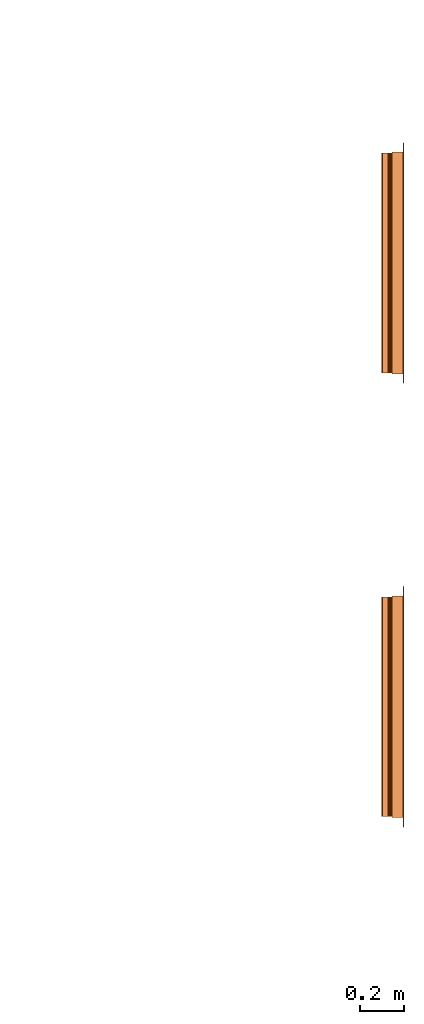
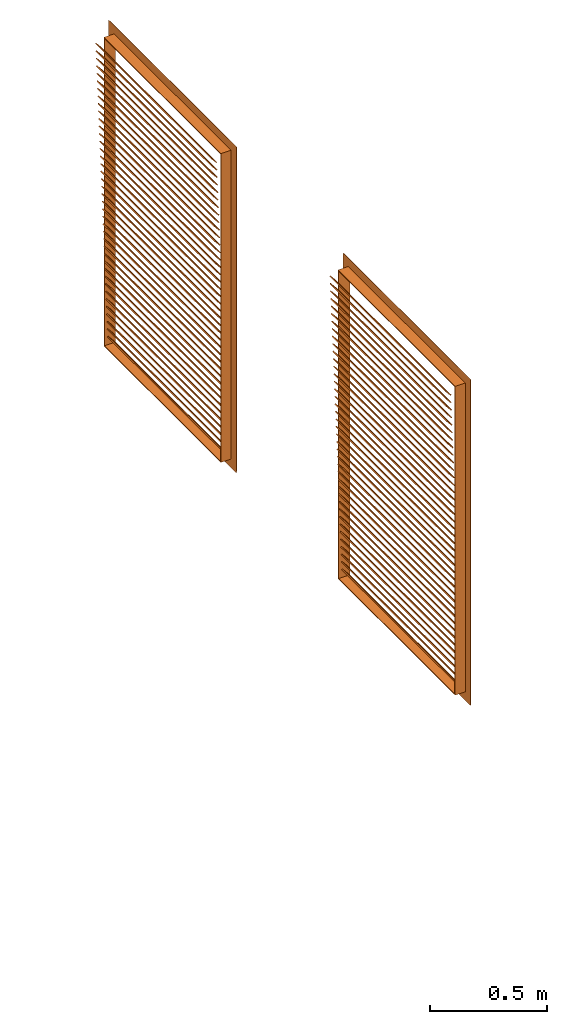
# One storey, part 1 of 5: 2 proxies.
"""IFC2X3 building model written with IfcOpenShell, lengths in centimetres."""

import ifcopenshell
import ifcopenshell.guid

model = None  # the IFC model being written
_history = None  # IfcOwnerHistory: only IFC2X3 demands one
_inside = {}  # id of a spatial element -> (the spatial element, [elements in it])
_under = {}  # id of a project, library or spatial element -> (it, [spatial elements below it])
_declared = {}  # id of a project -> (the project, [libraries it declares])
_typed = {}  # id of a type object -> (the type object, [elements of that type])
_made_of = {}  # id of a material, layer set ... -> (it, [elements and type objects made of it])


def new_model(schema):
    """Start an empty IFC model of exactly this schema.

    Asked for "IFC4X3", IfcOpenShell would pick the latest addendum, in which some entities
    have other attributes; the version numbers below select the first issue.
    IFC2X3 requires an IfcOwnerHistory on every rooted entity: one is made here for all.
    """
    global model, _history
    if schema == "IFC4X3":
        model = ifcopenshell.file(schema_version=(4, 3, 0, 0))
    else:
        model = ifcopenshell.file(schema=schema)
    _inside.clear()
    _under.clear()
    _declared.clear()
    _typed.clear()
    _made_of.clear()
    _history = None
    if model.schema == "IFC2X3":
        org = make("IfcOrganization", Name="unknown")
        user = make(
            "IfcPersonAndOrganization",
            ThePerson=make("IfcPerson", FamilyName="unknown"),
            TheOrganization=org,
        )
        app = make(
            "IfcApplication",
            ApplicationDeveloper=org,
            Version="unknown",
            ApplicationFullName="unknown",
            ApplicationIdentifier="unknown",
        )
        _history = make(
            "IfcOwnerHistory",
            OwningUser=user,
            OwningApplication=app,
            ChangeAction="ADDED",
            CreationDate=0,
        )
    return model


def make(cls, **values):
    """One entity of the class cls with the attributes given. An attribute that is None is left unset."""
    return model.create_entity(
        cls, **{name: value for name, value in values.items() if value is not None}
    )


def entity(cls, *values):
    """Any entity or typed value of the class cls, its attributes in the order of the schema. None: left unset."""
    e = model.create_entity(cls)
    for i, value in enumerate(values):
        if value is not None:
            e[i] = value
    return e


def rooted(cls, **values):
    """An entity with a GlobalId (a new one), such as an element, a storey or a relation."""
    return make(cls, GlobalId=ifcopenshell.guid.new(), OwnerHistory=_history, **values)


def si_unit(unit_type, name, prefix=None):
    """IfcSIUnit, for example si_unit("LENGTHUNIT", "METRE", prefix="MILLI")."""
    return make("IfcSIUnit", UnitType=unit_type, Prefix=prefix, Name=name)


def converted_unit(unit_type, name, factor, base, dimensions=None, offset=None):
    """IfcConversionBasedUnit, such as the inch: factor (a typed value) times the base unit."""
    return make(
        "IfcConversionBasedUnit"
        if offset is None
        else "IfcConversionBasedUnitWithOffset",
        ConversionOffset=offset,
        Dimensions=None
        if dimensions is None
        else entity("IfcDimensionalExponents", *dimensions),
        UnitType=unit_type,
        Name=name,
        ConversionFactor=make(
            "IfcMeasureWithUnit", ValueComponent=factor, UnitComponent=base
        ),
    )


def derived_unit(unit_type, elements):
    """IfcDerivedUnit: a product of units, each with its exponent."""
    return make(
        "IfcDerivedUnit",
        Elements=[
            make("IfcDerivedUnitElement", Unit=unit, Exponent=power)
            for unit, power in elements
        ],
        UnitType=unit_type,
    )


def assignment(units):
    """IfcUnitAssignment: the units of a project."""
    return None if units is None else make("IfcUnitAssignment", Units=units)


def point(xyz):
    """IfcCartesianPoint."""
    return None if xyz is None else make("IfcCartesianPoint", Coordinates=xyz)


def direction(xyz):
    """IfcDirection."""
    return None if xyz is None else make("IfcDirection", DirectionRatios=xyz)


def frame(location, z_axis=None, x_axis=None):
    """IfcAxis2Placement3D, a coordinate frame: its origin and axes. An axis left out is left unset."""
    return make(
        "IfcAxis2Placement3D",
        Location=point(location),
        Axis=direction(z_axis),
        RefDirection=direction(x_axis),
    )


def origin():
    """The frame at (0, 0, 0) with its axes left unset."""
    return frame((0.0, 0.0, 0.0))


def place(relative_to, where):
    """IfcLocalPlacement: puts the frame where relative to a parent placement (None: the world)."""
    return make(
        "IfcLocalPlacement", PlacementRelTo=relative_to, RelativePlacement=where
    )


def context(
    kind, dimensions, precision=None, world=None, true_north=None, identifier=None
):
    """IfcGeometricRepresentationContext, for example the 3D "Model" context."""
    return make(
        "IfcGeometricRepresentationContext",
        ContextIdentifier=identifier,
        ContextType=kind,
        CoordinateSpaceDimension=dimensions,
        Precision=precision,
        WorldCoordinateSystem=world,
        TrueNorth=true_north,
    )


def subcontext(parent, identifier, kind, view, scale=None):
    """IfcGeometricRepresentationSubContext, for example "Body" below "Model"."""
    return make(
        "IfcGeometricRepresentationSubContext",
        ContextIdentifier=identifier,
        ContextType=kind,
        ParentContext=parent,
        TargetScale=scale,
        TargetView=view,
    )


def project(units=None, contexts=None):
    """IfcProject with its units and contexts."""
    return rooted(
        "IfcProject",
        Name="project",
        RepresentationContexts=contexts,
        UnitsInContext=assignment(units),
    )


def spatial(cls, under=None, at=None, **own):
    """A site, building, storey or space (cls), placed at a placement, below another one or the project."""
    s = rooted(cls, ObjectPlacement=at, **own)
    if under is not None:
        _under.setdefault(under.id(), (under, []))[1].append(s)
    return s


def faces_of(points, faces, orient=None, outer=None):
    """IfcFace entities. A face is a list of loops; a loop is a list of indices into points, from 0.

    orient and outer hold one flag for each loop. By default every Orientation is true, the
    first loop of a face is its IfcFaceOuterBound and the others are IfcFaceBound.
    """
    made = []
    for i, loops in enumerate(faces):
        bounds = []
        for j, loop in enumerate(loops):
            is_outer = j == 0 if outer is None else outer[i][j]
            bounds.append(
                make(
                    "IfcFaceOuterBound" if is_outer else "IfcFaceBound",
                    Bound=make("IfcPolyLoop", Polygon=[points[k] for k in loop]),
                    Orientation=True if orient is None else orient[i][j],
                )
            )
        made.append(make("IfcFace", Bounds=bounds))
    return made


def faceted_brep(points, faces, orient=None, outer=None, voids=None):
    """IfcFacetedBrep: a solid bounded by flat faces; with voids (closed shells), ...WithVoids."""
    shared = [point(p) for p in points]
    hull = make("IfcClosedShell", CfsFaces=faces_of(shared, faces, orient, outer))
    if voids is None:
        return make("IfcFacetedBrep", Outer=hull)
    return make(
        "IfcFacetedBrepWithVoids",
        Outer=hull,
        Voids=[
            make(cls, CfsFaces=faces_of(shared, fs, o, b)) for cls, fs, o, b in voids
        ],
    )


def shape(context_of_items, identifier, shape_type, items):
    """IfcShapeRepresentation: the items that make up one representation, for example the "Body"."""
    return make(
        "IfcShapeRepresentation",
        ContextOfItems=context_of_items,
        RepresentationIdentifier=identifier,
        RepresentationType=shape_type,
        Items=items,
    )


def source(mapping_origin, context_of_items, identifier, shape_type, items):
    """IfcRepresentationMap: a shape defined once, which mapped items show again and again."""
    return make(
        "IfcRepresentationMap",
        MappingOrigin=mapping_origin,
        MappedRepresentation=shape(context_of_items, identifier, shape_type, items),
    )


def transform(
    local_origin,
    x_axis=None,
    y_axis=None,
    z_axis=None,
    scale=None,
    scale2=None,
    scale3=None,
    uniform=True,
):
    """IfcCartesianTransformationOperator3D, or its non-uniform kind. x_axis, y_axis, z_axis: its Axis1, 2, 3."""
    if uniform:
        return make(
            "IfcCartesianTransformationOperator3D",
            Axis1=direction(x_axis),
            Axis2=direction(y_axis),
            LocalOrigin=point(local_origin),
            Scale=scale,
            Axis3=direction(z_axis),
        )
    return make(
        "IfcCartesianTransformationOperator3DnonUniform",
        Axis1=direction(x_axis),
        Axis2=direction(y_axis),
        LocalOrigin=point(local_origin),
        Scale=scale,
        Axis3=direction(z_axis),
        Scale2=scale2,
        Scale3=scale3,
    )


def mapped(mapping_source, mapping_target):
    """IfcMappedItem: shows the shape of a source again, moved by a transform."""
    return make(
        "IfcMappedItem", MappingSource=mapping_source, MappingTarget=mapping_target
    )


def material(Name=None, Category=None):
    """IfcMaterial."""
    return make("IfcMaterial", Name=Name, Category=Category)


def made_of(thing, what):
    """Note that an element or type object is made of a material, layer set ...; save() writes the relation."""
    if what is not None:
        _made_of.setdefault(what.id(), (what, []))[1].append(thing)
    return thing


def type_object(cls, material=None, **own):
    """A type object (cls), such as IfcWallType, which elements share."""
    return made_of(rooted(cls, **own), material)


def type_shapes(of_type, sources):
    """Give a type object the sources (RepresentationMaps) that its elements show as mapped items."""
    of_type.RepresentationMaps = sources


def element(
    cls,
    number,
    at=None,
    inside=None,
    cuts=None,
    type_object=None,
    material=None,
    context=None,
    identifier="Body",
    shape_type=None,
    held_by="IfcProductDefinitionShape",
    body=None,
    shapes=None,
    **own,
):
    """One element of the class cls, such as IfcWall. Its Tag is "e" and its number.

    at: its placement. inside: the storey or other place that contains it. cuts: it is an
    opening in that element (IfcRelVoidsElement). A single representation is given by context,
    identifier, shape_type and body (its items); several are given by shapes. held_by: the class
    of the entity that holds the representations. save() writes the other relations.
    """
    e = rooted(cls, Tag="e%d" % number, ObjectPlacement=at, **own)
    if body is not None:
        shapes = [shape(context, identifier, shape_type, body)]
    if shapes is not None:
        e.Representation = make(held_by, Representations=shapes)
    if inside is not None:
        _inside.setdefault(inside.id(), (inside, []))[1].append(e)
    if cuts is not None:
        rooted(
            "IfcRelVoidsElement", RelatingBuildingElement=cuts, RelatedOpeningElement=e
        )
    if type_object is not None:
        _typed.setdefault(type_object.id(), (type_object, []))[1].append(e)
    return made_of(e, material)


def aggregate(whole, parts):
    """IfcRelAggregates: a whole, such as a stair, and the parts it consists of."""
    return rooted("IfcRelAggregates", RelatingObject=whole, RelatedObjects=parts)


def save(model, path):
    """Write the relations noted so far, then the file.

    IfcRelAggregates (storeys below a building ...), IfcRelContainedInSpatialStructure (elements
    in a storey), IfcRelDefinesByType, IfcRelAssociatesMaterial and IfcRelDeclares: one each for
    every whole, place, type object, material and project.
    """
    for whole, parts in _under.values():
        aggregate(whole, parts)
    for where, things in _inside.values():
        rooted(
            "IfcRelContainedInSpatialStructure",
            RelatedElements=things,
            RelatingStructure=where,
        )
    for kind, things in _typed.values():
        rooted("IfcRelDefinesByType", RelatedObjects=things, RelatingType=kind)
    for what, things in _made_of.values():
        rooted("IfcRelAssociatesMaterial", RelatedObjects=things, RelatingMaterial=what)
    for by, libraries in _declared.values():
        rooted("IfcRelDeclares", RelatingContext=by, RelatedDefinitions=libraries)
    model.write(path)


model = new_model("IFC2X3")

# Units and contexts
model_context = context("Model", 3, precision=0.001, world=origin(), true_north=direction((6.12303176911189e-17, 1.0)))
body_context = subcontext(model_context, "Body", "Model", "MODEL_VIEW")
ifc_project = project(units=[si_unit("LENGTHUNIT", "METRE", prefix="CENTI"), si_unit("AREAUNIT", "SQUARE_METRE"), si_unit("VOLUMEUNIT", "CUBIC_METRE"), converted_unit("PLANEANGLEUNIT", "DEGREE", entity("IfcRatioMeasure", 0.0174532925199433), si_unit("PLANEANGLEUNIT", "RADIAN"), dimensions=[0, 0, 0, 0, 0, 0, 0]), si_unit("MASSUNIT", "GRAM", prefix="KILO"), si_unit("TIMEUNIT", "SECOND"), si_unit("FREQUENCYUNIT", "HERTZ"), si_unit("THERMODYNAMICTEMPERATUREUNIT", "DEGREE_CELSIUS"), derived_unit("THERMALTRANSMITTANCEUNIT", [(si_unit("MASSUNIT", "GRAM", prefix="KILO"), 1), (si_unit("THERMODYNAMICTEMPERATUREUNIT", "KELVIN"), -1), (si_unit("TIMEUNIT", "SECOND"), -3)]), derived_unit("VOLUMETRICFLOWRATEUNIT", [(si_unit("LENGTHUNIT", "METRE"), 3), (si_unit("TIMEUNIT", "SECOND"), -1)]), si_unit("ELECTRICCURRENTUNIT", "AMPERE"), si_unit("ELECTRICVOLTAGEUNIT", "VOLT"), si_unit("POWERUNIT", "WATT"), si_unit("FORCEUNIT", "NEWTON", prefix="KILO"), si_unit("ILLUMINANCEUNIT", "LUX"), si_unit("LUMINOUSFLUXUNIT", "LUMEN"), si_unit("LUMINOUSINTENSITYUNIT", "CANDELA"), derived_unit("USERDEFINED", [(si_unit("MASSUNIT", "GRAM", prefix="KILO"), -1), (si_unit("LENGTHUNIT", "METRE"), -2), (si_unit("TIMEUNIT", "SECOND"), 3), (si_unit("LUMINOUSFLUXUNIT", "LUMEN"), 1)]), derived_unit("LINEARVELOCITYUNIT", [(si_unit("LENGTHUNIT", "METRE"), 1), (si_unit("TIMEUNIT", "SECOND"), -1)]), si_unit("PRESSUREUNIT", "PASCAL"), derived_unit("USERDEFINED", [(si_unit("LENGTHUNIT", "METRE"), -2), (si_unit("MASSUNIT", "GRAM", prefix="KILO"), 1), (si_unit("TIMEUNIT", "SECOND"), -2)])], contexts=[model_context])

# Site, building, storey
site_placement = place(None, frame((8.62739174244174, -249.285249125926, 0.0)))
site = spatial("IfcSite", under=ifc_project, at=site_placement, Name="Default", CompositionType="ELEMENT")
building_placement = place(site_placement, origin())
building = spatial("IfcBuilding", under=site, at=building_placement, CompositionType="ELEMENT")
storey_placement = place(building_placement, frame((0.0, 0.0, 410.0)))
storey = spatial("IfcBuildingStorey", under=building, at=storey_placement, Name="Acrotère E1", CompositionType="ELEMENT", Elevation=410.000000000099)

# Proxies
ifc_material = material(Name="Acier - Galvanisé")
building_element_proxy_type = type_object("IfcBuildingElementProxyType", Name="1700 x 800 mm", PredefinedType="NOTDEFINED", material=ifc_material)
shared_shape = source(origin(), body_context, "Body", "Brep", [
    faceted_brep([(104.011775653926, 5.84615384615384, 13.0503124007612), (104.011775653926, 8.4173042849, 9.98613462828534), (104.011775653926, 8.80032650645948, 10.3075284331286), (104.011775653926, 6.22917606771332, 13.3717062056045), (5.01177565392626, 5.84615384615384, 13.0503124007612), (5.01177565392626, 6.22917606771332, 13.3717062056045), (5.01177565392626, 8.80032650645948, 10.3075284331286), (5.01177565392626, 8.4173042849, 9.98613462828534)], [[[0, 1, 2, 3]], [[4, 5, 6, 7]], [[1, 0, 4, 7]], [[2, 1, 7, 6]], [[3, 2, 6, 5]], [[0, 3, 5, 4]]]),
    faceted_brep([(104.011775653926, 5.69230769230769, 17.0246713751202), (104.011775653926, 8.26345813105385, 13.9604936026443), (104.011775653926, 8.64648035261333, 14.2818874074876), (104.011775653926, 6.07532991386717, 17.3460651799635), (5.01177565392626, 5.69230769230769, 17.0246713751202), (5.01177565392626, 6.07532991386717, 17.3460651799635), (5.01177565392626, 8.64648035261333, 14.2818874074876), (5.01177565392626, 8.26345813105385, 13.9604936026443)], [[[0, 1, 2, 3]], [[4, 5, 6, 7]], [[1, 0, 4, 7]], [[2, 1, 7, 6]], [[3, 2, 6, 5]], [[0, 3, 5, 4]]]),
    faceted_brep([(104.011775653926, 5.53846153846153, 20.9990303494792), (104.011775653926, 8.10961197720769, 17.9348525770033), (104.011775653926, 8.49263419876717, 18.2562463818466), (104.011775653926, 5.92148376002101, 21.3204241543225), (5.01177565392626, 5.53846153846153, 20.9990303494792), (5.01177565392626, 5.92148376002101, 21.3204241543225), (5.01177565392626, 8.49263419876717, 18.2562463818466), (5.01177565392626, 8.10961197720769, 17.9348525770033)], [[[0, 1, 2, 3]], [[4, 5, 6, 7]], [[1, 0, 4, 7]], [[2, 1, 7, 6]], [[3, 2, 6, 5]], [[0, 3, 5, 4]]]),
    faceted_brep([(104.011775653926, 5.38461538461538, 24.9733893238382), (104.011775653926, 7.95576582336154, 21.9092115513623), (104.011775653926, 8.33878804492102, 22.2306053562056), (104.011775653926, 5.76763760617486, 25.2947831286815), (5.01177565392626, 5.38461538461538, 24.9733893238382), (5.01177565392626, 5.76763760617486, 25.2947831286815), (5.01177565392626, 8.33878804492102, 22.2306053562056), (5.01177565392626, 7.95576582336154, 21.9092115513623)], [[[0, 1, 2, 3]], [[4, 5, 6, 7]], [[1, 0, 4, 7]], [[2, 1, 7, 6]], [[3, 2, 6, 5]], [[0, 3, 5, 4]]]),
    faceted_brep([(104.011775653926, 5.23076923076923, 28.9477482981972), (104.011775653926, 7.80191966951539, 25.8835705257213), (104.011775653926, 8.18494189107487, 26.2049643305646), (104.011775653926, 5.61379145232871, 29.2691421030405), (5.01177565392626, 5.23076923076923, 28.9477482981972), (5.01177565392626, 5.61379145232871, 29.2691421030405), (5.01177565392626, 8.18494189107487, 26.2049643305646), (5.01177565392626, 7.80191966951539, 25.8835705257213)], [[[0, 1, 2, 3]], [[4, 5, 6, 7]], [[1, 0, 4, 7]], [[2, 1, 7, 6]], [[3, 2, 6, 5]], [[0, 3, 5, 4]]]),
    faceted_brep([(104.011775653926, 5.07692307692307, 32.9221072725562), (104.011775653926, 7.64807351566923, 29.8579295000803), (104.011775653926, 8.03109573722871, 30.1793233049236), (104.011775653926, 5.45994529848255, 33.2435010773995), (5.01177565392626, 5.07692307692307, 32.9221072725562), (5.01177565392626, 5.45994529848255, 33.2435010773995), (5.01177565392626, 8.03109573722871, 30.1793233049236), (5.01177565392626, 7.64807351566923, 29.8579295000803)], [[[0, 1, 2, 3]], [[4, 5, 6, 7]], [[1, 0, 4, 7]], [[2, 1, 7, 6]], [[3, 2, 6, 5]], [[0, 3, 5, 4]]]),
    faceted_brep([(104.011775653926, 4.92307692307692, 36.8964662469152), (104.011775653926, 7.49422736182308, 33.8322884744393), (104.011775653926, 7.87724958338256, 34.1536822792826), (104.011775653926, 5.3060991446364, 37.2178600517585), (5.01177565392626, 4.92307692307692, 36.8964662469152), (5.01177565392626, 5.3060991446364, 37.2178600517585), (5.01177565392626, 7.87724958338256, 34.1536822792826), (5.01177565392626, 7.49422736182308, 33.8322884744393)], [[[0, 1, 2, 3]], [[4, 5, 6, 7]], [[1, 0, 4, 7]], [[2, 1, 7, 6]], [[3, 2, 6, 5]], [[0, 3, 5, 4]]]),
    faceted_brep([(104.011775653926, 4.76923076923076, 40.8708252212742), (104.011775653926, 7.34038120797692, 37.8066474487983), (104.011775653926, 7.7234034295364, 38.1280412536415), (104.011775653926, 5.15225299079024, 41.1922190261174), (5.01177565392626, 4.76923076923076, 40.8708252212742), (5.01177565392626, 5.15225299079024, 41.1922190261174), (5.01177565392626, 7.7234034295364, 38.1280412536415), (5.01177565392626, 7.34038120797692, 37.8066474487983)], [[[0, 1, 2, 3]], [[4, 5, 6, 7]], [[1, 0, 4, 7]], [[2, 1, 7, 6]], [[3, 2, 6, 5]], [[0, 3, 5, 4]]]),
    faceted_brep([(104.011775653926, 4.61538461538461, 44.8451841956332), (104.011775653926, 7.18653505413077, 41.7810064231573), (104.011775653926, 7.56955727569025, 42.1024002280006), (104.011775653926, 4.99840683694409, 45.1665780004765), (5.01177565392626, 4.61538461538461, 44.8451841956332), (5.01177565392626, 4.99840683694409, 45.1665780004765), (5.01177565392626, 7.56955727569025, 42.1024002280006), (5.01177565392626, 7.18653505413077, 41.7810064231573)], [[[0, 1, 2, 3]], [[4, 5, 6, 7]], [[1, 0, 4, 7]], [[2, 1, 7, 6]], [[3, 2, 6, 5]], [[0, 3, 5, 4]]]),
    faceted_brep([(104.011775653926, 4.46153846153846, 48.8195431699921), (104.011775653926, 7.03268890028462, 45.7553653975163), (104.011775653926, 7.4157111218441, 46.0767592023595), (104.011775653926, 4.84456068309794, 49.1409369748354), (5.01177565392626, 4.46153846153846, 48.8195431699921), (5.01177565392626, 4.84456068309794, 49.1409369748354), (5.01177565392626, 7.4157111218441, 46.0767592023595), (5.01177565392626, 7.03268890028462, 45.7553653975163)], [[[0, 1, 2, 3]], [[4, 5, 6, 7]], [[1, 0, 4, 7]], [[2, 1, 7, 6]], [[3, 2, 6, 5]], [[0, 3, 5, 4]]]),
    faceted_brep([(104.011775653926, 4.3076923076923, 52.7939021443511), (104.011775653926, 6.87884274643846, 49.7297243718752), (104.011775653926, 7.26186496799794, 50.0511181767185), (104.011775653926, 4.69071452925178, 53.1152959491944), (5.01177565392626, 4.3076923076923, 52.7939021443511), (5.01177565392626, 4.69071452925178, 53.1152959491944), (5.01177565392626, 7.26186496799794, 50.0511181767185), (5.01177565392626, 6.87884274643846, 49.7297243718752)], [[[0, 1, 2, 3]], [[4, 5, 6, 7]], [[1, 0, 4, 7]], [[2, 1, 7, 6]], [[3, 2, 6, 5]], [[0, 3, 5, 4]]]),
    faceted_brep([(104.011775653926, 4.15384615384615, 56.7682611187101), (104.011775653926, 6.72499659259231, 53.7040833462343), (104.011775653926, 7.10801881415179, 54.0254771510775), (104.011775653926, 4.53686837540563, 57.0896549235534), (5.01177565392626, 4.15384615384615, 56.7682611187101), (5.01177565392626, 4.53686837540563, 57.0896549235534), (5.01177565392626, 7.10801881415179, 54.0254771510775), (5.01177565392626, 6.72499659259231, 53.7040833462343)], [[[0, 1, 2, 3]], [[4, 5, 6, 7]], [[1, 0, 4, 7]], [[2, 1, 7, 6]], [[3, 2, 6, 5]], [[0, 3, 5, 4]]]),
    faceted_brep([(104.011775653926, 4.0, 60.7426200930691), (104.011775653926, 6.57115043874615, 57.6784423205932), (104.011775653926, 6.95417266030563, 57.9998361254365), (104.011775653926, 4.38302222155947, 61.0640138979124), (5.01177565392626, 4.0, 60.7426200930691), (5.01177565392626, 4.38302222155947, 61.0640138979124), (5.01177565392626, 6.95417266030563, 57.9998361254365), (5.01177565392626, 6.57115043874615, 57.6784423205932)], [[[0, 1, 2, 3]], [[4, 5, 6, 7]], [[1, 0, 4, 7]], [[2, 1, 7, 6]], [[3, 2, 6, 5]], [[0, 3, 5, 4]]]),
    faceted_brep([(104.011775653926, 3.84615384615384, 64.716979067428), (104.011775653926, 6.4173042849, 61.6528012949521), (104.011775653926, 6.80032650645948, 61.9741950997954), (104.011775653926, 4.22917606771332, 65.0383728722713), (5.01177565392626, 3.84615384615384, 64.716979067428), (5.01177565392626, 4.22917606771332, 65.0383728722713), (5.01177565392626, 6.80032650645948, 61.9741950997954), (5.01177565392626, 6.4173042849, 61.6528012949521)], [[[0, 1, 2, 3]], [[4, 5, 6, 7]], [[1, 0, 4, 7]], [[2, 1, 7, 6]], [[3, 2, 6, 5]], [[0, 3, 5, 4]]]),
    faceted_brep([(104.011775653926, 3.69230769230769, 68.6913380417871), (104.011775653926, 6.26345813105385, 65.6271602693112), (104.011775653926, 6.64648035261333, 65.9485540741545), (104.011775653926, 4.07532991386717, 69.0127318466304), (5.01177565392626, 3.69230769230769, 68.6913380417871), (5.01177565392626, 4.07532991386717, 69.0127318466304), (5.01177565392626, 6.64648035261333, 65.9485540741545), (5.01177565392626, 6.26345813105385, 65.6271602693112)], [[[0, 1, 2, 3]], [[4, 5, 6, 7]], [[1, 0, 4, 7]], [[2, 1, 7, 6]], [[3, 2, 6, 5]], [[0, 3, 5, 4]]]),
    faceted_brep([(104.011775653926, 3.53846153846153, 72.665697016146), (104.011775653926, 6.10961197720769, 69.6015192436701), (104.011775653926, 6.49263419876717, 69.9229130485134), (104.011775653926, 3.92148376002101, 72.9870908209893), (5.01177565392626, 3.53846153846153, 72.665697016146), (5.01177565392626, 3.92148376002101, 72.9870908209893), (5.01177565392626, 6.49263419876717, 69.9229130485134), (5.01177565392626, 6.10961197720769, 69.6015192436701)], [[[0, 1, 2, 3]], [[4, 5, 6, 7]], [[1, 0, 4, 7]], [[2, 1, 7, 6]], [[3, 2, 6, 5]], [[0, 3, 5, 4]]]),
    faceted_brep([(104.011775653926, 3.38461538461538, 76.6400559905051), (104.011775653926, 5.95576582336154, 73.5758782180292), (104.011775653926, 6.33878804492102, 73.8972720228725), (104.011775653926, 3.76763760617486, 76.9614497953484), (5.01177565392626, 3.38461538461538, 76.6400559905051), (5.01177565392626, 3.76763760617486, 76.9614497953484), (5.01177565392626, 6.33878804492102, 73.8972720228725), (5.01177565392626, 5.95576582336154, 73.5758782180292)], [[[0, 1, 2, 3]], [[4, 5, 6, 7]], [[1, 0, 4, 7]], [[2, 1, 7, 6]], [[3, 2, 6, 5]], [[0, 3, 5, 4]]]),
    faceted_brep([(104.011775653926, 3.23076923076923, 80.614414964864), (104.011775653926, 5.80191966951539, 77.5502371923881), (104.011775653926, 6.18494189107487, 77.8716309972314), (104.011775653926, 3.61379145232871, 80.9358087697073), (5.01177565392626, 3.23076923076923, 80.614414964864), (5.01177565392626, 3.61379145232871, 80.9358087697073), (5.01177565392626, 6.18494189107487, 77.8716309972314), (5.01177565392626, 5.80191966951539, 77.5502371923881)], [[[0, 1, 2, 3]], [[4, 5, 6, 7]], [[1, 0, 4, 7]], [[2, 1, 7, 6]], [[3, 2, 6, 5]], [[0, 3, 5, 4]]]),
    faceted_brep([(104.011775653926, 3.07692307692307, 84.588773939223), (104.011775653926, 5.64807351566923, 81.5245961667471), (104.011775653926, 6.03109573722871, 81.8459899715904), (104.011775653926, 3.45994529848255, 84.9101677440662), (5.01177565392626, 3.07692307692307, 84.588773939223), (5.01177565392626, 3.45994529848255, 84.9101677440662), (5.01177565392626, 6.03109573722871, 81.8459899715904), (5.01177565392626, 5.64807351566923, 81.5245961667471)], [[[0, 1, 2, 3]], [[4, 5, 6, 7]], [[1, 0, 4, 7]], [[2, 1, 7, 6]], [[3, 2, 6, 5]], [[0, 3, 5, 4]]]),
    faceted_brep([(104.011775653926, 2.92307692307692, 88.563132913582), (104.011775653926, 5.49422736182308, 85.4989551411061), (104.011775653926, 5.87724958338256, 85.8203489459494), (104.011775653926, 3.3060991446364, 88.8845267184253), (5.01177565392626, 2.92307692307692, 88.563132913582), (5.01177565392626, 3.3060991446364, 88.8845267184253), (5.01177565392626, 5.87724958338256, 85.8203489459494), (5.01177565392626, 5.49422736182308, 85.4989551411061)], [[[0, 1, 2, 3]], [[4, 5, 6, 7]], [[1, 0, 4, 7]], [[2, 1, 7, 6]], [[3, 2, 6, 5]], [[0, 3, 5, 4]]]),
    faceted_brep([(104.011775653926, 2.76923076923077, 92.537491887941), (104.011775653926, 5.34038120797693, 89.4733141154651), (104.011775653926, 5.72340342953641, 89.7947079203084), (104.011775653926, 3.15225299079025, 92.8588856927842), (5.01177565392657, 2.76923076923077, 92.537491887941), (5.01177565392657, 3.15225299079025, 92.8588856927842), (5.01177565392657, 5.72340342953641, 89.7947079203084), (5.01177565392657, 5.34038120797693, 89.4733141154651)], [[[0, 1, 2, 3]], [[4, 5, 6, 7]], [[1, 0, 4, 7]], [[2, 1, 7, 6]], [[3, 2, 6, 5]], [[0, 3, 5, 4]]]),
    faceted_brep([(104.011775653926, 2.61538461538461, 96.5118508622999), (104.011775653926, 5.18653505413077, 93.447673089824), (104.011775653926, 5.56955727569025, 93.7690668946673), (104.011775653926, 2.99840683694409, 96.8332446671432), (5.01177565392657, 2.61538461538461, 96.5118508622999), (5.01177565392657, 2.99840683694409, 96.8332446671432), (5.01177565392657, 5.56955727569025, 93.7690668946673), (5.01177565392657, 5.18653505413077, 93.447673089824)], [[[0, 1, 2, 3]], [[4, 5, 6, 7]], [[1, 0, 4, 7]], [[2, 1, 7, 6]], [[3, 2, 6, 5]], [[0, 3, 5, 4]]]),
    faceted_brep([(104.011775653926, 2.46153846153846, 100.486209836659), (104.011775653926, 5.03268890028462, 97.4220320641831), (104.011775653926, 5.4157111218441, 97.7434258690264), (104.011775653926, 2.84456068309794, 100.807603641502), (5.01177565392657, 2.46153846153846, 100.486209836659), (5.01177565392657, 2.84456068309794, 100.807603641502), (5.01177565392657, 5.4157111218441, 97.7434258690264), (5.01177565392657, 5.03268890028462, 97.4220320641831)], [[[0, 1, 2, 3]], [[4, 5, 6, 7]], [[1, 0, 4, 7]], [[2, 1, 7, 6]], [[3, 2, 6, 5]], [[0, 3, 5, 4]]]),
    faceted_brep([(104.011775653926, 2.3076923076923, 104.460568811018), (104.011775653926, 4.87884274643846, 101.396391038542), (104.011775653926, 5.26186496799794, 101.717784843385), (104.011775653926, 2.69071452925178, 104.781962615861), (5.01177565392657, 2.3076923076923, 104.460568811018), (5.01177565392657, 2.69071452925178, 104.781962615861), (5.01177565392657, 5.26186496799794, 101.717784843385), (5.01177565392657, 4.87884274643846, 101.396391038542)], [[[0, 1, 2, 3]], [[4, 5, 6, 7]], [[1, 0, 4, 7]], [[2, 1, 7, 6]], [[3, 2, 6, 5]], [[0, 3, 5, 4]]]),
    faceted_brep([(104.011775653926, 2.15384615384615, 108.434927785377), (104.011775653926, 4.72499659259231, 105.370750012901), (104.011775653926, 5.10801881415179, 105.692143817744), (104.011775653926, 2.53686837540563, 108.75632159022), (5.01177565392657, 2.15384615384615, 108.434927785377), (5.01177565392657, 2.53686837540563, 108.75632159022), (5.01177565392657, 5.10801881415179, 105.692143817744), (5.01177565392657, 4.72499659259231, 105.370750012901)], [[[0, 1, 2, 3]], [[4, 5, 6, 7]], [[1, 0, 4, 7]], [[2, 1, 7, 6]], [[3, 2, 6, 5]], [[0, 3, 5, 4]]]),
    faceted_brep([(104.011775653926, 2.0, 112.409286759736), (104.011775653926, 4.57115043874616, 109.34510898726), (104.011775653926, 4.95417266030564, 109.666502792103), (104.011775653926, 2.38302222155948, 112.730680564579), (5.01177565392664, 2.0, 112.409286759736), (5.01177565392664, 2.38302222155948, 112.730680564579), (5.01177565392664, 4.95417266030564, 109.666502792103), (5.01177565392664, 4.57115043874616, 109.34510898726)], [[[0, 1, 2, 3]], [[4, 5, 6, 7]], [[1, 0, 4, 7]], [[2, 1, 7, 6]], [[3, 2, 6, 5]], [[0, 3, 5, 4]]]),
    faceted_brep([(104.011775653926, 1.84615384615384, 116.383645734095), (104.011775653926, 4.4173042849, 113.319467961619), (104.011775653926, 4.80032650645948, 113.640861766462), (104.011775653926, 2.22917606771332, 116.705039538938), (5.01177565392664, 1.84615384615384, 116.383645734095), (5.01177565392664, 2.22917606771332, 116.705039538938), (5.01177565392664, 4.80032650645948, 113.640861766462), (5.01177565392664, 4.4173042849, 113.319467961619)], [[[0, 1, 2, 3]], [[4, 5, 6, 7]], [[1, 0, 4, 7]], [[2, 1, 7, 6]], [[3, 2, 6, 5]], [[0, 3, 5, 4]]]),
    faceted_brep([(104.011775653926, 1.69230769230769, 120.358004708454), (104.011775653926, 4.26345813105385, 117.293826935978), (104.011775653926, 4.64648035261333, 117.615220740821), (104.011775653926, 2.07532991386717, 120.679398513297), (5.01177565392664, 1.69230769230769, 120.358004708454), (5.01177565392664, 2.07532991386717, 120.679398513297), (5.01177565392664, 4.64648035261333, 117.615220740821), (5.01177565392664, 4.26345813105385, 117.293826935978)], [[[0, 1, 2, 3]], [[4, 5, 6, 7]], [[1, 0, 4, 7]], [[2, 1, 7, 6]], [[3, 2, 6, 5]], [[0, 3, 5, 4]]]),
    faceted_brep([(104.011775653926, 1.53846153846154, 124.332363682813), (104.011775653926, 4.1096119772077, 121.268185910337), (104.011775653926, 4.49263419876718, 121.58957971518), (104.011775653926, 1.92148376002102, 124.653757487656), (5.01177565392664, 1.53846153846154, 124.332363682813), (5.01177565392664, 1.92148376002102, 124.653757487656), (5.01177565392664, 4.49263419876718, 121.58957971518), (5.01177565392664, 4.1096119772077, 121.268185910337)], [[[0, 1, 2, 3]], [[4, 5, 6, 7]], [[1, 0, 4, 7]], [[2, 1, 7, 6]], [[3, 2, 6, 5]], [[0, 3, 5, 4]]]),
    faceted_brep([(104.011775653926, 1.38461538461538, 128.306722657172), (104.011775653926, 3.95576582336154, 125.242544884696), (104.011775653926, 4.33878804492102, 125.563938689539), (104.011775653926, 1.76763760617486, 128.628116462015), (5.01177565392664, 1.38461538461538, 128.306722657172), (5.01177565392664, 1.76763760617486, 128.628116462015), (5.01177565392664, 4.33878804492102, 125.563938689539), (5.01177565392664, 3.95576582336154, 125.242544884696)], [[[0, 1, 2, 3]], [[4, 5, 6, 7]], [[1, 0, 4, 7]], [[2, 1, 7, 6]], [[3, 2, 6, 5]], [[0, 3, 5, 4]]]),
    faceted_brep([(104.011775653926, 1.23076923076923, 132.281081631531), (104.011775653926, 3.80191966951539, 129.216903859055), (104.011775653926, 4.18494189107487, 129.538297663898), (104.011775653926, 1.61379145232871, 132.602475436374), (5.01177565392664, 1.23076923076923, 132.281081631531), (5.01177565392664, 1.61379145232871, 132.602475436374), (5.01177565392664, 4.18494189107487, 129.538297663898), (5.01177565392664, 3.80191966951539, 129.216903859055)], [[[0, 1, 2, 3]], [[4, 5, 6, 7]], [[1, 0, 4, 7]], [[2, 1, 7, 6]], [[3, 2, 6, 5]], [[0, 3, 5, 4]]]),
    faceted_brep([(104.011775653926, 1.07692307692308, 136.25544060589), (104.011775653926, 3.64807351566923, 133.191262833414), (104.011775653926, 4.03109573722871, 133.512656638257), (104.011775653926, 1.45994529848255, 136.576834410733), (5.01177565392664, 1.07692307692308, 136.25544060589), (5.01177565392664, 1.45994529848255, 136.576834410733), (5.01177565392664, 4.03109573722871, 133.512656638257), (5.01177565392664, 3.64807351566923, 133.191262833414)], [[[0, 1, 2, 3]], [[4, 5, 6, 7]], [[1, 0, 4, 7]], [[2, 1, 7, 6]], [[3, 2, 6, 5]], [[0, 3, 5, 4]]]),
    faceted_brep([(104.011775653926, 0.923076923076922, 140.229799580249), (104.011775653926, 3.49422736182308, 137.165621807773), (104.011775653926, 3.87724958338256, 137.487015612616), (104.011775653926, 1.3060991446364, 140.551193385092), (5.01177565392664, 0.923076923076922, 140.229799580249), (5.01177565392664, 1.3060991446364, 140.551193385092), (5.01177565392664, 3.87724958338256, 137.487015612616), (5.01177565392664, 3.49422736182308, 137.165621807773)], [[[0, 1, 2, 3]], [[4, 5, 6, 7]], [[1, 0, 4, 7]], [[2, 1, 7, 6]], [[3, 2, 6, 5]], [[0, 3, 5, 4]]]),
    faceted_brep([(104.011775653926, 0.769230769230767, 144.204158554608), (104.011775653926, 3.34038120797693, 141.139980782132), (104.011775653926, 3.72340342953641, 141.461374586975), (104.011775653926, 1.15225299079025, 144.525552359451), (5.01177565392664, 0.769230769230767, 144.204158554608), (5.01177565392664, 1.15225299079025, 144.525552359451), (5.01177565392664, 3.72340342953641, 141.461374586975), (5.01177565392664, 3.34038120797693, 141.139980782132)], [[[0, 1, 2, 3]], [[4, 5, 6, 7]], [[1, 0, 4, 7]], [[2, 1, 7, 6]], [[3, 2, 6, 5]], [[0, 3, 5, 4]]]),
    faceted_brep([(104.011775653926, 0.615384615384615, 148.178517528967), (104.011775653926, 3.18653505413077, 145.114339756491), (104.011775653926, 3.56955727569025, 145.435733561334), (104.011775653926, 0.998406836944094, 148.49991133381), (5.01177565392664, 0.615384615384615, 148.178517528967), (5.01177565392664, 0.998406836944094, 148.49991133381), (5.01177565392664, 3.56955727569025, 145.435733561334), (5.01177565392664, 3.18653505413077, 145.114339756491)], [[[0, 1, 2, 3]], [[4, 5, 6, 7]], [[1, 0, 4, 7]], [[2, 1, 7, 6]], [[3, 2, 6, 5]], [[0, 3, 5, 4]]]),
    faceted_brep([(104.011775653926, 0.461538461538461, 152.152876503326), (104.011775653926, 3.03268890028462, 149.08869873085), (104.011775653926, 3.4157111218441, 149.410092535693), (104.011775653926, 0.84456068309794, 152.474270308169), (5.01177565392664, 0.461538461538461, 152.152876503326), (5.01177565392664, 0.84456068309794, 152.474270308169), (5.01177565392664, 3.4157111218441, 149.410092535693), (5.01177565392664, 3.03268890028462, 149.08869873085)], [[[0, 1, 2, 3]], [[4, 5, 6, 7]], [[1, 0, 4, 7]], [[2, 1, 7, 6]], [[3, 2, 6, 5]], [[0, 3, 5, 4]]]),
    faceted_brep([(104.011775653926, 0.307692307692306, 156.127235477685), (104.011775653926, 2.87884274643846, 153.063057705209), (104.011775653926, 3.26186496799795, 153.384451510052), (104.011775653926, 0.690714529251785, 156.448629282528), (5.01177565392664, 0.307692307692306, 156.127235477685), (5.01177565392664, 0.690714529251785, 156.448629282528), (5.01177565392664, 3.26186496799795, 153.384451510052), (5.01177565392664, 2.87884274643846, 153.063057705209)], [[[0, 1, 2, 3]], [[4, 5, 6, 7]], [[1, 0, 4, 7]], [[2, 1, 7, 6]], [[3, 2, 6, 5]], [[0, 3, 5, 4]]]),
    faceted_brep([(104.011775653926, 0.153846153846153, 160.101594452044), (104.011775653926, 2.72499659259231, 157.037416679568), (104.011775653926, 3.10801881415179, 157.358810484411), (104.011775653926, 0.536868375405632, 160.422988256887), (5.01177565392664, 0.153846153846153, 160.101594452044), (5.01177565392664, 0.536868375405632, 160.422988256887), (5.01177565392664, 3.10801881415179, 157.358810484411), (5.01177565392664, 2.72499659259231, 157.037416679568)], [[[0, 1, 2, 3]], [[4, 5, 6, 7]], [[1, 0, 4, 7]], [[2, 1, 7, 6]], [[3, 2, 6, 5]], [[0, 3, 5, 4]]]),
    faceted_brep([(104.011775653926, 6.0, 9.07595342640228), (104.011775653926, 8.57115043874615, 6.01177565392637), (104.011775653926, 8.95417266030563, 6.33316945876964), (104.011775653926, 6.38302222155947, 9.39734723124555), (5.01177565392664, 6.0, 9.07595342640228), (5.01177565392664, 6.38302222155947, 9.39734723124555), (5.01177565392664, 8.95417266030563, 6.33316945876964), (5.01177565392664, 8.57115043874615, 6.01177565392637)], [[[0, 1, 2, 3]], [[4, 5, 6, 7]], [[1, 0, 4, 7]], [[2, 1, 7, 6]], [[3, 2, 6, 5]], [[0, 3, 5, 4]]]),
    faceted_brep([(104.011775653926, 0.0, 164.075953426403), (104.011775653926, 2.57115043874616, 161.011775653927), (104.011775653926, 2.95417266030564, 161.33316945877), (104.011775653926, 0.383022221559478, 164.397347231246), (5.01177565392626, 0.0, 164.075953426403), (5.01177565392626, 0.383022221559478, 164.397347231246), (5.01177565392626, 2.95417266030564, 161.33316945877), (5.01177565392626, 2.57115043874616, 161.011775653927)], [[[0, 1, 2, 3]], [[4, 5, 6, 7]], [[1, 0, 4, 7]], [[2, 1, 7, 6]], [[3, 2, 6, 5]], [[0, 3, 5, 4]]]),
    faceted_brep([(4.51177565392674, 4.57115043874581, 165.511775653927), (4.51177565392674, 9.57115043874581, 165.511775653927), (4.51177565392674, 9.57115043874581, 4.51177565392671), (4.51177565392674, 4.57115043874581, 4.51177565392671), (5.01177565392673, 10.0711504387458, 165.011775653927), (5.01177565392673, 4.57115043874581, 165.011775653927), (5.01177565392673, 4.57115043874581, 5.0117756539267), (5.01177565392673, 10.0711504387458, 5.0117756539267), (0.0, 9.57115043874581, 170.023551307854), (0.499999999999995, 10.0711504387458, 169.523551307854), (0.499999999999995, 10.0711504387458, 0.499999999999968), (0.0, 9.57115043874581, 0.0), (104.511775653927, 9.57115043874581, 4.51177565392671), (104.511775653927, 4.57115043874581, 4.51177565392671), (104.011775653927, 4.57115043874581, 5.0117756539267), (104.011775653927, 10.0711504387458, 5.0117756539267), (108.523551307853, 10.0711504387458, 0.499999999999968), (109.023551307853, 9.57115043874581, 0.0), (104.511775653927, 9.57115043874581, 165.511775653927), (104.511775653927, 4.57115043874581, 165.511775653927), (104.011775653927, 4.57115043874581, 165.011775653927), (104.011775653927, 10.0711504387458, 165.011775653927), (108.523551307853, 10.0711504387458, 169.523551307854), (109.023551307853, 9.57115043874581, 170.023551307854)], [[[0, 1, 2, 3]], [[4, 5, 6, 7]], [[8, 9, 10, 11]], [[3, 2, 12, 13]], [[7, 6, 14, 15]], [[11, 10, 16, 17]], [[13, 12, 18, 19]], [[15, 14, 20, 21]], [[17, 16, 22, 23]], [[19, 18, 1, 0]], [[3, 13, 19, 0], [5, 20, 14, 6]], [[21, 20, 5, 4]], [[7, 15, 21, 4], [9, 22, 16, 10]], [[23, 22, 9, 8]], [[11, 17, 23, 8], [1, 18, 12, 2]]], outer=[[True], [True], [True], [True], [True], [True], [True], [True], [True], [True], [True, False], [True], [False, True], [True], [True, False]]),
])
type_shapes(building_element_proxy_type, [shared_shape])
for number, where, z_axis, x_axis in (
    (1, (4016.33367737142, 6087.50375944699, 40.4999999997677), (0.0, 0.0, 1.0), (0.0, -1.0, 0.0)),
    (2, (4016.33367737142, 5887.50375944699, 40.4999999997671), (0.0, 0.0, 1.0), (0.0, -1.0, 0.0)),
):
    element("IfcBuildingElementProxy", number, at=place(storey_placement, frame(where, z_axis=z_axis, x_axis=x_axis)), inside=storey, type_object=building_element_proxy_type, material=ifc_material, Name="Grille d'aération-100x80:1700 x 800 mm", ObjectType="1700 x 800 mm", context=body_context, shape_type="MappedRepresentation", body=[
        mapped(shared_shape, transform((0.0, 0.0, 0.0), scale=1.0)),
    ])

save(model, "model.ifc")
